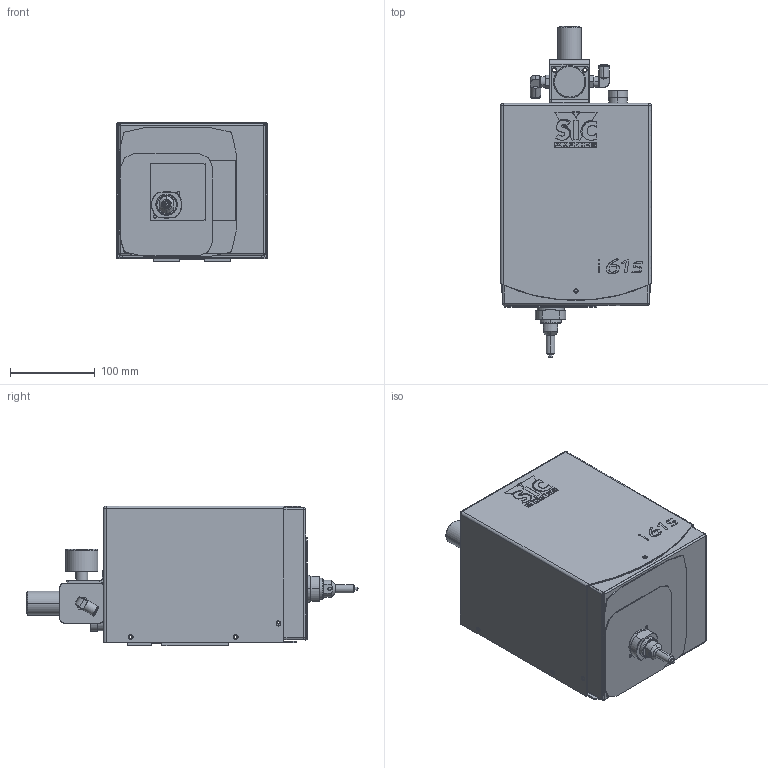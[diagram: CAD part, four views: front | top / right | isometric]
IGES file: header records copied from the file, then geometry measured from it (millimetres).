
Start section: SolidWorks IGES FILE using analytic representation for surfaces
Global section: file name: V:\04 - Produits\200 - i61s\02 - Diffusion commerciale\i61s.IGS; native system: SolidWorks 2004 by SolidWorks Corporation; preprocessor: Version 5.3; author: sic21; date: 051007.102322; units: millimetre
Bounding box: 178 x 392 x 165.1 mm (x, y, z)
Surface area: 609690.7 mm2 (no closed solid volume)
Topology: 0 solids, 0 shells, 1142 faces, 16949 edges, 16931 vertices
Faces by surface type: bspline 635, revolution 507
